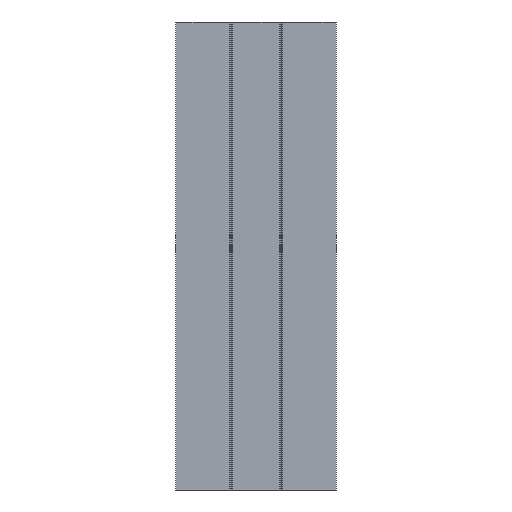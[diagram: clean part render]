
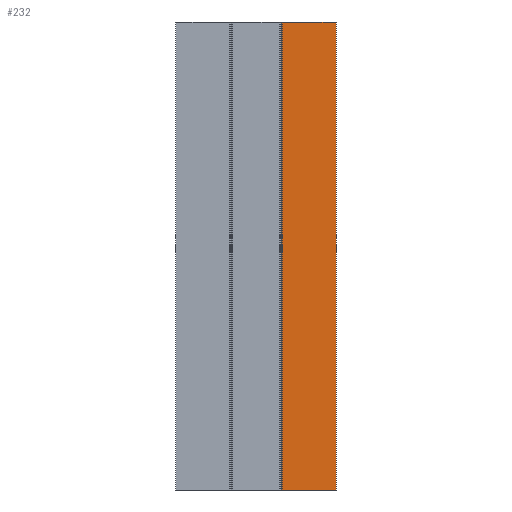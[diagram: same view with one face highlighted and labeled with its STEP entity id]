
A CAD part, front view. The second image highlights one B-rep face of the part: STEP entity #232.
In plain terms, the highlighted planar face has unit normal (0, -1, 0).
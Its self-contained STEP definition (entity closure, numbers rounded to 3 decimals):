
#4 = VERTEX_POINT ( 'NONE', #1514 ) ;
#221 = DIRECTION ( 'NONE',  ( 0., -1., 0. ) ) ;
#232 = ADVANCED_FACE ( 'NONE', ( #430 ), #441, .T. ) ;
#298 = LINE ( 'NONE', #1313, #1565 ) ;
#430 = FACE_OUTER_BOUND ( 'NONE', #971, .T. ) ;
#441 = PLANE ( 'NONE',  #1092 ) ;
#474 = CARTESIAN_POINT ( 'NONE',  ( 110.75, -3., -690. ) ) ;
#486 = CARTESIAN_POINT ( 'NONE',  ( 30.125, -3., -690. ) ) ;
#499 = CARTESIAN_POINT ( 'NONE',  ( 110.75, -3., -690. ) ) ;
#533 = DIRECTION ( 'NONE',  ( 1., 0., 0. ) ) ;
#587 = DIRECTION ( 'NONE',  ( 0., 0., -1. ) ) ;
#602 = VECTOR ( 'NONE', #919, 1000. ) ;
#620 = EDGE_CURVE ( 'NONE', #1474, #1337, #1200, .T. ) ;
#669 = VECTOR ( 'NONE', #1458, 1000. ) ;
#772 = ORIENTED_EDGE ( 'NONE', *, *, #883, .T. ) ;
#807 = CARTESIAN_POINT ( 'NONE',  ( -129.25, -3., 10. ) ) ;
#871 = VECTOR ( 'NONE', #533, 1000. ) ;
#883 = EDGE_CURVE ( 'NONE', #1337, #4, #1071, .T. ) ;
#919 = DIRECTION ( 'NONE',  ( -1., 0., 0. ) ) ;
#923 = EDGE_CURVE ( 'NONE', #4, #1027, #298, .T. ) ;
#971 = EDGE_LOOP ( 'NONE', ( #772, #1393, #1461, #1132 ) ) ;
#1027 = VERTEX_POINT ( 'NONE', #486 ) ;
#1071 = LINE ( 'NONE', #807, #602 ) ;
#1092 = AXIS2_PLACEMENT_3D ( 'NONE', #1430, #221, #587 ) ;
#1132 = ORIENTED_EDGE ( 'NONE', *, *, #620, .T. ) ;
#1146 = LINE ( 'NONE', #1274, #871 ) ;
#1186 = DIRECTION ( 'NONE',  ( 0., 0., -1. ) ) ;
#1200 = LINE ( 'NONE', #474, #669 ) ;
#1274 = CARTESIAN_POINT ( 'NONE',  ( -129.25, -3., -690. ) ) ;
#1296 = CARTESIAN_POINT ( 'NONE',  ( 110.75, -3., 10. ) ) ;
#1313 = CARTESIAN_POINT ( 'NONE',  ( 30.125, -3., -690. ) ) ;
#1337 = VERTEX_POINT ( 'NONE', #1296 ) ;
#1393 = ORIENTED_EDGE ( 'NONE', *, *, #923, .T. ) ;
#1430 = CARTESIAN_POINT ( 'NONE',  ( -129.25, -3., -690. ) ) ;
#1458 = DIRECTION ( 'NONE',  ( 0., 0., 1. ) ) ;
#1461 = ORIENTED_EDGE ( 'NONE', *, *, #1607, .T. ) ;
#1474 = VERTEX_POINT ( 'NONE', #499 ) ;
#1514 = CARTESIAN_POINT ( 'NONE',  ( 30.125, -3., 10. ) ) ;
#1565 = VECTOR ( 'NONE', #1186, 1000. ) ;
#1607 = EDGE_CURVE ( 'NONE', #1027, #1474, #1146, .T. ) ;
